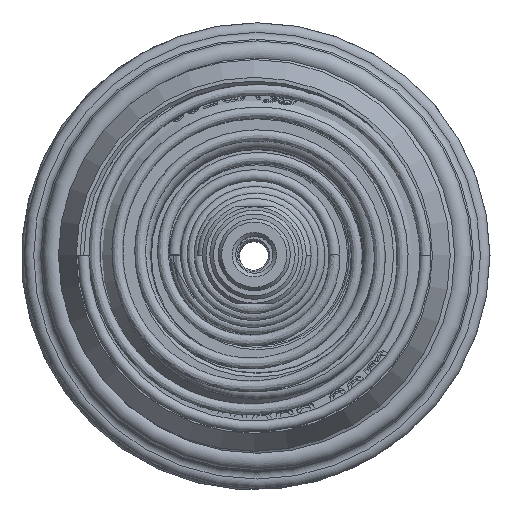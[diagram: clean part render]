
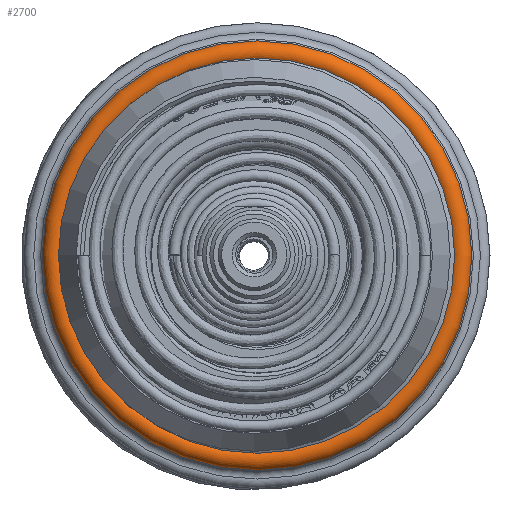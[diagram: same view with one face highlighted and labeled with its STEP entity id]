
A CAD part, top view. The second image highlights one B-rep face of the part: STEP entity #2700.
In plain terms, the highlighted toroidal (fillet/blend) face has major radius 27.448 mm and minor radius 1.5 mm.
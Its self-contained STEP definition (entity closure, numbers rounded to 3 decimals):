
#2700 = ADVANCED_FACE( '', ( #5670, #5671 ), #5672, .T. );
#5670 = FACE_OUTER_BOUND( '', #31635, .T. );
#5671 = FACE_OUTER_BOUND( '', #31636, .T. );
#5672 = TOROIDAL_SURFACE( '', #31637, 27.448, 1.5 );
#31635 = EDGE_LOOP( '', ( #44115 ) );
#31636 = EDGE_LOOP( '', ( #44116 ) );
#31637 = AXIS2_PLACEMENT_3D( '', #44117, #44118, #44119 );
#44115 = ORIENTED_EDGE( '', *, *, #45432, .F. );
#44116 = ORIENTED_EDGE( '', *, *, #44919, .T. );
#44117 = CARTESIAN_POINT( '', ( 0.365, 0., -12.558 ) );
#44118 = DIRECTION( '', ( 0., 0., 1. ) );
#44119 = DIRECTION( '', ( 1., 0., 0. ) );
#44919 = EDGE_CURVE( '', #47980, #47980, #47981, .T. );
#45432 = EDGE_CURVE( '', #48889, #48889, #48890, .T. );
#47980 = VERTEX_POINT( '', #52526 );
#47981 = CIRCLE( '', #52527, 28.948 );
#48889 = VERTEX_POINT( '', #55328 );
#48890 = CIRCLE( '', #55329, 26.638 );
#52526 = CARTESIAN_POINT( '', ( 29.314, 0., -12.558 ) );
#52527 = AXIS2_PLACEMENT_3D( '', #65474, #65475, #65476 );
#55328 = CARTESIAN_POINT( '', ( 27.004, 0., -11.295 ) );
#55329 = AXIS2_PLACEMENT_3D( '', #65928, #65929, #65930 );
#65474 = CARTESIAN_POINT( '', ( 0.365, 0., -12.558 ) );
#65475 = DIRECTION( '', ( 0., 0., 1. ) );
#65476 = DIRECTION( '', ( 1., 0., 0. ) );
#65928 = CARTESIAN_POINT( '', ( 0.365, 0., -11.295 ) );
#65929 = DIRECTION( '', ( 0., 0., 1. ) );
#65930 = DIRECTION( '', ( 1., 0., 0. ) );
